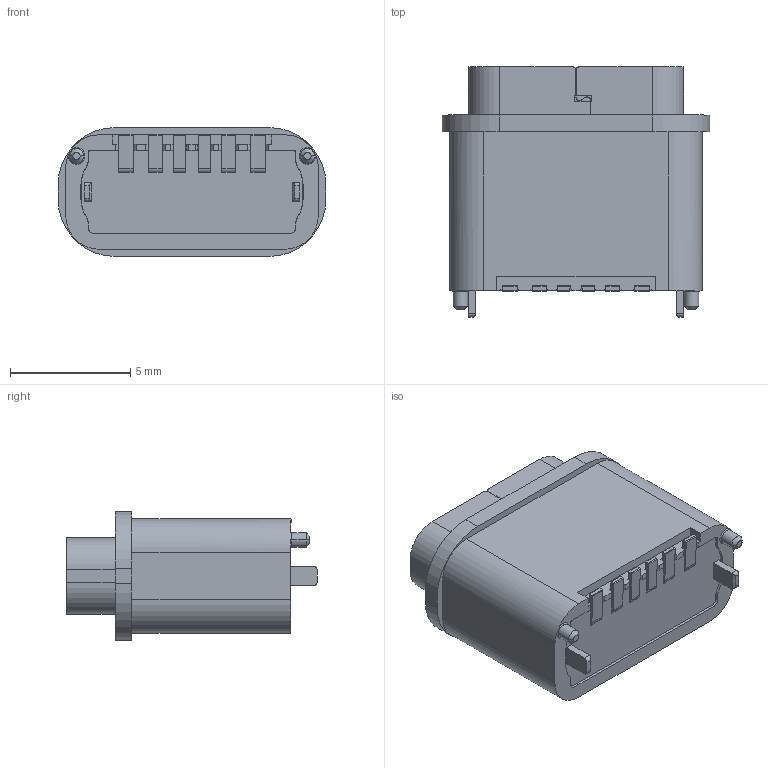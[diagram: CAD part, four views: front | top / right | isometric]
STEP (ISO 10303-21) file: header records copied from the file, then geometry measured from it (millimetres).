
FILE_DESCRIPTION((''),'2;1');
FILE_NAME('93-01','2023-11-13T15:31:19',('Administrator'),(''),'CREO PARAMETRIC BY PTC INC, 2019080','CREO PARAMETRIC BY PTC INC, 2019080','');
FILE_SCHEMA(('CONFIG_CONTROL_DESIGN'));
Length unit declared in the file: millimetre
Products named in the file (1): 93-01
Bounding box: 11.14 x 10.4 x 5.36 mm (x, y, z)
Volume: 327.2 mm3; surface area: 572.9 mm2
Topology: 1 solids, 5 shells, 704 faces, 1899 edges, 1234 vertices
Faces by surface type: plane 546, cylinder 116, cone 30, torus 12
Entity records: 21849 total; most frequent: CARTESIAN_POINT 3923, ORIENTED_EDGE 3798, DIRECTION 3563, EDGE_CURVE 1899, VECTOR 1599, LINE 1599, VERTEX_POINT 1234, AXIS2_PLACEMENT_3D 982
